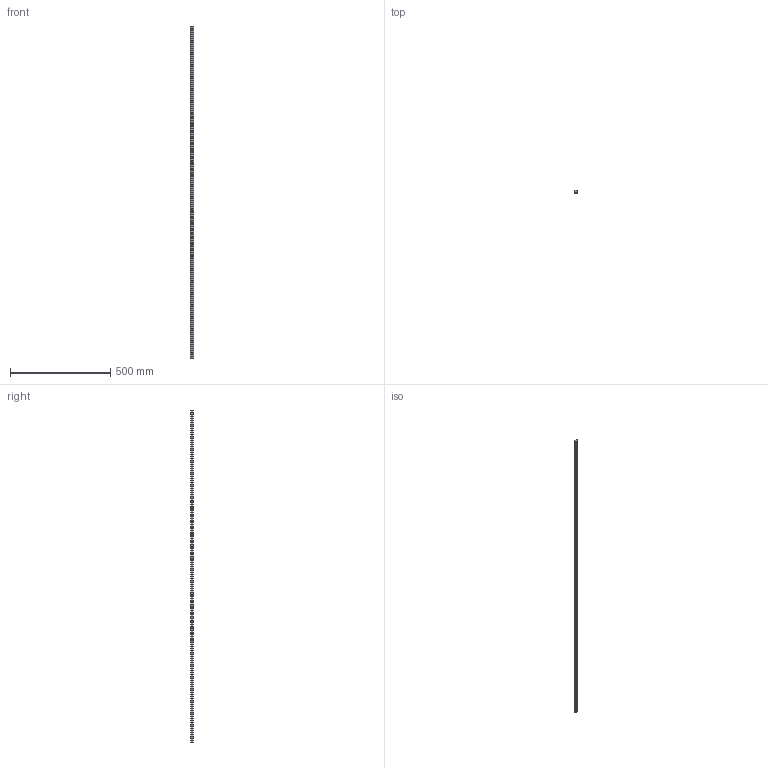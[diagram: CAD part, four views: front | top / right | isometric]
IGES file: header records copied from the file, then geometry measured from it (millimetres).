
Start section: SolidWorks IGES file using analytic representation for surfaces
Global section: file name: C:\Users\IanO\Desktop\L1016_v2\L1016.BL15_v2\L1016.BL15_v2_20190611_IGES\L1016.BL15-1660.igs; native system: SolidWorks 2017; preprocessor: SolidWorks 2017; author: IanO; date: 190612.122930; units: millimetre
Bounding box: 15 x 13 x 1660 mm (x, y, z)
Surface area: 101565.8 mm2 (no closed solid volume)
Topology: 0 solids, 0 shells, 166 faces, 4184 edges, 4184 vertices
Faces by surface type: revolution 116, bspline 50
